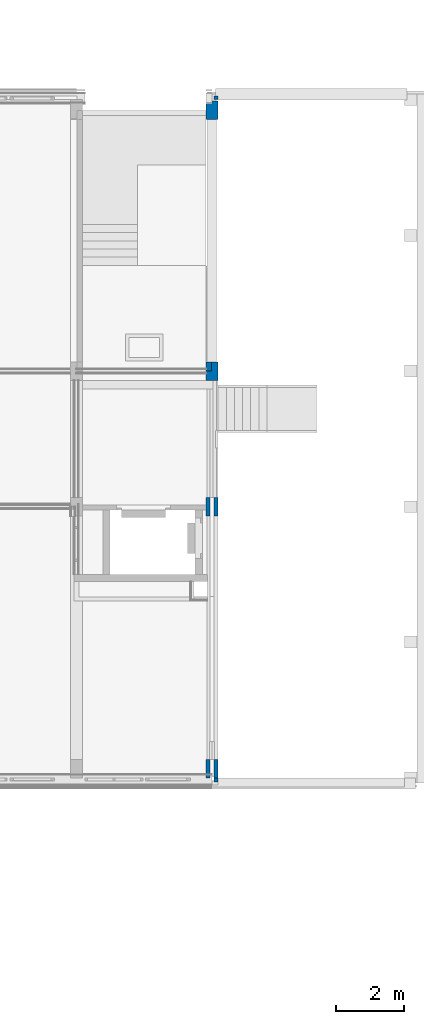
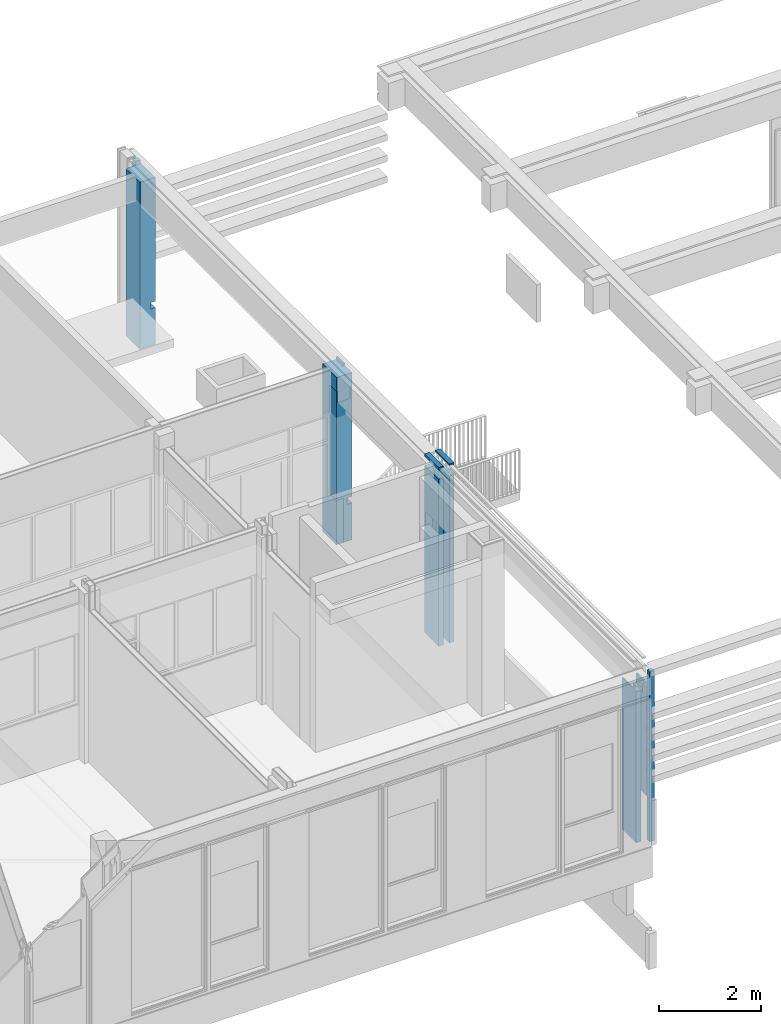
# One storey, part 5 of 54: 8 columns.
"""IFC2X3 building model written with IfcOpenShell, lengths in millimetres."""

from ifc_helpers import new_model, entity, si_unit, converted_unit, derived_unit, money_unit, direction, frame, origin_with_axes, place, context, subcontext, project, spatial, faceted_brep, material, type_object, element, save


model = new_model("IFC2X3")

# Units and contexts
model_context = context("Model", 3, precision=0.01, world=origin_with_axes(), true_north=direction((0.0, 1.0)))
body_context = subcontext(model_context, "Body", "Model", "MODEL_VIEW")
ifc_project = project(units=[si_unit("LENGTHUNIT", "METRE", prefix="MILLI"), si_unit("AREAUNIT", "SQUARE_METRE"), si_unit("VOLUMEUNIT", "CUBIC_METRE"), converted_unit("PLANEANGLEUNIT", "DEGREE", entity("IfcPlaneAngleMeasure", 0.0174532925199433), si_unit("PLANEANGLEUNIT", "RADIAN"), dimensions=[0, 0, 0, 0, 0, 0, 0]), money_unit("EUR"), converted_unit("TIMEUNIT", "Year", entity("IfcTimeMeasure", 31557600.0), si_unit("TIMEUNIT", "SECOND"), dimensions=[0, 0, 1, 0, 0, 0, 0]), si_unit("MASSUNIT", "GRAM", prefix="KILO"), si_unit("THERMODYNAMICTEMPERATUREUNIT", "DEGREE_CELSIUS"), si_unit("LUMINOUSINTENSITYUNIT", "LUMEN"), si_unit("ENERGYUNIT", "JOULE", prefix="MEGA"), derived_unit("THERMALCONDUCTANCEUNIT", [(si_unit("POWERUNIT", "WATT"), 1), (si_unit("LENGTHUNIT", "METRE"), -1), (si_unit("THERMODYNAMICTEMPERATUREUNIT", "KELVIN"), -1)]), derived_unit("SPECIFICHEATCAPACITYUNIT", [(si_unit("ENERGYUNIT", "JOULE"), 1), (si_unit("MASSUNIT", "GRAM", prefix="KILO"), -1), (si_unit("THERMODYNAMICTEMPERATUREUNIT", "KELVIN"), -1)]), derived_unit("MASSDENSITYUNIT", [(si_unit("MASSUNIT", "GRAM", prefix="KILO"), 1), (si_unit("VOLUMEUNIT", "CUBIC_METRE"), -1)])], contexts=[model_context])

# Site, building, storey
site_placement = place(None, origin_with_axes())
site = spatial("IfcSite", under=ifc_project, at=site_placement, Name="<site naam>", CompositionType="ELEMENT")
building_placement = place(site_placement, origin_with_axes())
building = spatial("IfcBuilding", under=site, at=building_placement, Name="<Naam gebouw>", CompositionType="ELEMENT")
storey_placement = place(building_placement, frame((0.0, 0.0, 8500.0), z_axis=(0.0, 0.0, 1.0), x_axis=(1.0, 0.0, 0.0)))
storey = spatial("IfcBuildingStorey", under=building, at=storey_placement, Name="02 2e verdieping", CompositionType="ELEMENT", Elevation=8500.0)

# Columns
ifc_material_1 = material(Name="betonblok C")
column_type_1 = type_object("IfcColumnType", Name="betonblok C 350 x 550", PredefinedType="COLUMN")
column_1_placement = place(storey_placement, frame((52000.00000000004, 12000.00000000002, 0.0), z_axis=(0.0, 0.0, 1.0), x_axis=(1.0, 0.0, 0.0)))
element("IfcColumn", 1, at=column_1_placement, inside=storey, type_object=column_type_1, material=ifc_material_1, Name="28_Kolom_betonblok", ObjectType="COLUMN", context=body_context, shape_type="Brep", body=[
    faceted_brep([(134.9999999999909, 275.0000000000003, 4050.000014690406), (134.9999999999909, -2.609430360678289e-05, 4050.000014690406), (175.0000786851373, -2.609430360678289e-05, 4050.000014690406), (174.9999999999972, 275.0000000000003, 4050.000014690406), (134.9999999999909, -275.0000000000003, 3660.0), (134.9999999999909, -2.609430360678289e-05, 3660.0), (134.9999999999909, 275.0000000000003, 3390.0), (134.9999999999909, -275.0000000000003, 3390.0), (175.0000786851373, -2.609430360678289e-05, 3660.0), (175.0000786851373, -274.9999999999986, 3660.0), (174.9999999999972, -274.9999999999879, 1033.000000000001), (174.9999999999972, 275.0000000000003, 1033.000000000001), (-15.00000000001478, 274.9999999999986, 0.0), (-15.00000000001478, 274.9999999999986, 3390.0), (64.99999999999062, 275.0000000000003, 1033.000000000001), (64.99999999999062, 275.0000000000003, 883.0000000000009), (174.9999999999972, 275.0000000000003, 883.0000000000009), (174.9999999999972, 275.0000000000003, 0.0), (-15.00000000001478, 0.0, 3390.0), (-145.0000000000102, 0.0, 3390.0), (-145.0000000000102, -275.0000000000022, 3390.0), (-145.0000000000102, -275.0000000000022, 3660.0), (-174.999921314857, -275.0000000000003, 3660.0), (-175.0000000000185, -274.9999999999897, 1063.000000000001), (-15.00000000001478, -274.9999999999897, 1063.000000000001), (-15.00000000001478, -275.0000000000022, 0.0), (174.9999999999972, -275.0000000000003, 0.0), (174.9999999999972, -274.9999999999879, 883.0000000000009), (64.99999999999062, -274.9999999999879, 883.0000000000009), (64.99999999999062, -274.9999999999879, 1033.000000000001), (-15.00000000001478, 0.0, 1063.000000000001), (-175.0000000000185, 0.0, 1063.000000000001), (-174.999921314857, -2.609430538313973e-05, 3660.0), (-145.0000000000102, -2.609430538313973e-05, 3660.0)], [[[0, 1, 2, 3]], [[4, 5, 1, 0, 6, 7]], [[5, 8, 2, 1]], [[2, 8, 9, 10, 11, 3]], [[12, 13, 6, 0, 3, 11, 14, 15, 16, 17]], [[4, 9, 8, 5]], [[7, 6, 13, 18, 19, 20]], [[10, 9, 4, 7, 20, 21, 22, 23, 24, 25, 26, 27, 28, 29]], [[10, 29, 14, 11]], [[30, 18, 13, 12, 25, 24]], [[29, 28, 15, 14]], [[15, 28, 27, 16]], [[26, 17, 16, 27]], [[12, 17, 26, 25]], [[31, 32, 33, 19, 18, 30]], [[19, 33, 21, 20]], [[22, 21, 33, 32]], [[23, 22, 32, 31]], [[30, 24, 23, 31]]]),
])
column_2_placement = place(storey_placement, frame((52000.00000000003, 275.0000000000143, 0.0), z_axis=(0.0, 0.0, 1.0), x_axis=(1.0, 0.0, 0.0)))
element("IfcColumn", 2, at=column_2_placement, inside=storey, type_object=column_type_1, material=ifc_material_1, Name="28_Kolom_betonblok", ObjectType="COLUMN", context=body_context, shape_type="Brep", body=[
    faceted_brep([(-144.999999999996, -113.1146094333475, 3390.0), (-144.999999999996, -113.1146094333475, 3610.000000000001), (-64.99999999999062, -113.1146094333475, 3610.000000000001), (-64.99999999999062, -113.1146094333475, 3390.0), (-144.999999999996, 275.0000000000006, 3390.0), (-144.999999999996, 275.0000000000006, 3610.000000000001), (-174.9999213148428, -275.0000260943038, 3610.000000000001), (-64.99999999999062, -275.0000260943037, 3610.000000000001), (-174.9999213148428, 275.0000000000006, 3610.000000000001), (-64.99999999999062, -275.0000000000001, 0.0), (-64.99999999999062, 275.0000000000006, 0.0), (-64.99999999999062, 275.0000000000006, 3390.0), (-174.9999999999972, 275.0000000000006, 0.0), (-174.9999999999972, -275.0000000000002, 0.0)], [[[0, 1, 2, 3]], [[4, 5, 1, 0]], [[6, 7, 2, 1, 5, 8]], [[3, 2, 7, 9, 10, 11]], [[0, 3, 11, 4]], [[12, 8, 5, 4, 11, 10]], [[9, 7, 6, 13]], [[13, 6, 8, 12]], [[9, 13, 12, 10]]]),
    faceted_brep([(135.0000000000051, 275.0000000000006, 3390.0), (135.0000000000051, 275.0000000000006, 3610.000000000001), (175.0000786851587, 275.0000000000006, 3610.000000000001), (175.0000000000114, 275.0000000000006, 1032.499999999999), (65.00000000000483, 275.0000000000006, 1032.499999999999), (65.00000000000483, 275.0000000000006, 3390.0), (135.0000000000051, -113.1146094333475, 3390.0), (135.0000000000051, -113.1146094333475, 3610.000000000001), (65.00000000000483, -275.0000260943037, 3610.000000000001), (175.0000786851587, -275.0000260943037, 3610.000000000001), (65.00000000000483, -113.1146094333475, 3610.000000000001), (174.9999999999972, -275.0000000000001, 3212.5), (174.9999999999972, -264.0893218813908, 3212.5), (174.9999999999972, -264.0893218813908, 3062.5), (174.9999999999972, -275.0000000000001, 3062.5), (174.9999999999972, -275.0000000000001, 2712.5), (174.9999999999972, -264.0893218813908, 2712.5), (174.9999999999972, -264.0893218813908, 2562.5), (174.9999999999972, -275.0000000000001, 2562.5), (174.9999999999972, -275.0000000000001, 2212.500000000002), (174.9999999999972, -264.0893218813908, 2212.5), (174.9999999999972, -264.0893218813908, 2062.5), (174.9999999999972, -275.0000000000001, 2062.5), (174.9999999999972, -275.0000000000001, 1712.499999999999), (174.9999999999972, -264.0893218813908, 1712.5), (174.9999999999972, -264.0893218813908, 1562.5), (174.9999999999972, -275.0000000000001, 1562.5), (175.0000000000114, -275.0000000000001, 1032.499999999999), (65.00000000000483, -275.0000000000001, 1032.499999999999), (65.00000000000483, -275.0000000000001, 3212.5), (65.00000000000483, -113.1146094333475, 3390.0), (65.00000000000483, -275.0000000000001, 1562.5), (65.00000000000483, -264.0893218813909, 1562.5), (65.00000000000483, -264.0893218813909, 1712.5), (65.00000000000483, -275.0000000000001, 1712.5), (65.00000000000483, -275.0000000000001, 2062.5), (65.00000000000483, -264.0893218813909, 2062.5), (65.00000000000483, -264.0893218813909, 2212.5), (65.00000000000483, -275.0000000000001, 2212.5), (65.00000000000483, -275.0000000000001, 2562.5), (65.00000000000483, -264.0893218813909, 2562.5), (65.00000000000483, -264.0893218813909, 2712.5), (65.00000000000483, -275.0000000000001, 2712.5), (65.00000000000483, -275.0000000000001, 3062.5), (65.00000000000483, -264.0893218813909, 3062.5), (65.00000000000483, -264.0893218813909, 3212.5)], [[[0, 1, 2, 3, 4, 5]], [[6, 7, 1, 0]], [[8, 9, 2, 1, 7, 10]], [[3, 2, 9, 11, 12, 13, 14, 15, 16, 17, 18, 19, 20, 21, 22, 23, 24, 25, 26, 27]], [[28, 4, 3, 27]], [[29, 8, 10, 30, 5, 4, 28, 31, 32, 33, 34, 35, 36, 37, 38, 39, 40, 41, 42, 43, 44, 45]], [[6, 0, 5, 30]], [[30, 10, 7, 6]], [[11, 9, 8, 29]], [[45, 12, 11, 29]], [[44, 13, 12, 45]], [[43, 14, 13, 44]], [[43, 42, 15, 14]], [[41, 16, 15, 42]], [[40, 17, 16, 41]], [[39, 18, 17, 40]], [[39, 38, 19, 18]], [[37, 20, 19, 38]], [[36, 21, 20, 37]], [[35, 22, 21, 36]], [[35, 34, 23, 22]], [[33, 24, 23, 34]], [[32, 25, 24, 33]], [[31, 26, 25, 32]], [[31, 28, 27, 26]]]),
])
column_3_placement = place(storey_placement, frame((52000.00000000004, 8000.000000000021, 0.0), z_axis=(0.0, 0.0, 1.0), x_axis=(1.0, 0.0, 0.0)))
element("IfcColumn", 3, at=column_3_placement, inside=storey, type_object=column_type_1, material=ifc_material_1, Name="28_Kolom_betonblok", ObjectType="COLUMN", context=body_context, shape_type="Brep", body=[
    faceted_brep([(-174.9999999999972, 274.9999999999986, 0.0), (-174.999921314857, 274.9999999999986, 3660.0), (-145.0000000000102, 274.9999999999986, 3660.0), (-145.0000000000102, 274.9999999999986, 3390.0), (-65.00000000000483, 274.9999999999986, 3390.0), (-65.00000000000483, 274.9999999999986, 0.0), (-174.999921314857, -5.546175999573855, 3610.000000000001), (-174.999921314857, -5.546175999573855, 3660.0), (-174.9999999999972, -275.0000000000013, 0.0), (-174.999921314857, -275.0000000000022, 3610.000000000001), (-145.0000000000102, -5.546175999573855, 3660.0), (-145.0000000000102, -5.546175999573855, 3610.000000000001), (-145.0000000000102, -275.000000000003, 3610.000000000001), (-145.0000000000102, -275.0000000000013, 3390.0), (-65.00000000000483, -275.0000000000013, 3390.0), (-65.00000000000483, -275.0000000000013, 0.0)], [[[0, 1, 2, 3, 4, 5]], [[6, 7, 1, 0, 8, 9]], [[7, 10, 2, 1]], [[3, 2, 10, 11, 12, 13]], [[13, 14, 4, 3]], [[5, 4, 14, 15]], [[15, 8, 0, 5]], [[11, 10, 7, 6]], [[13, 12, 9, 8, 15, 14]], [[9, 12, 11, 6]]]),
    faceted_brep([(-145.0000000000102, -275.0000000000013, 4210.000000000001), (-145.0000000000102, 274.9999999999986, 4210.000000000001), (-145.0000000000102, 274.9999999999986, 4240.0), (-145.0000000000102, -275.0000000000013, 4240.0), (-174.999921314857, -275.0000000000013, 4210.000000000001), (-174.999921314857, 274.9999999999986, 4210.000000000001), (-174.9999999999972, 274.9999999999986, 4270.0), (-65.00000000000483, 274.9999999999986, 4270.0), (-65.00000000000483, 274.9999999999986, 4240.0), (-65.00000000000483, -275.0000000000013, 4240.0), (-174.9999999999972, -275.0000000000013, 4270.0), (-65.00000000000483, -275.0000000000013, 4270.0)], [[[0, 1, 2, 3]], [[4, 5, 1, 0]], [[2, 1, 5, 6, 7, 8]], [[3, 2, 8, 9]], [[10, 4, 0, 3, 9, 11]], [[6, 5, 4, 10]], [[7, 6, 10, 11]], [[11, 9, 8, 7]]]),
    faceted_brep([(134.9999999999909, 275.0000000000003, 3390.0), (134.9999999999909, 274.9999999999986, 3660.0), (175.0000786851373, 275.0000000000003, 3660.0), (175.0000000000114, 275.0000000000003, 1032.499999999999), (64.99999999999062, 275.0000000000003, 1032.499999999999), (64.99999999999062, 275.0000000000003, 3390.0), (134.9999999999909, -5.546175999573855, 3610.000000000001), (134.9999999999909, -5.546175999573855, 3660.0), (134.9999999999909, -275.0000000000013, 3390.0), (134.9999999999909, -275.0000000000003, 3610.000000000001), (175.0000786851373, -5.546175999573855, 3660.0), (175.0000786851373, -5.546175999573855, 3610.000000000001), (175.0000786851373, -275.000000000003, 3610.000000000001), (175.0000000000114, -275.0000000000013, 1032.499999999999), (64.99999999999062, -275.0000000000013, 1032.499999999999), (64.99999999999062, -275.0000000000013, 3390.0)], [[[0, 1, 2, 3, 4, 5]], [[6, 7, 1, 0, 8, 9]], [[7, 10, 2, 1]], [[3, 2, 10, 11, 12, 13]], [[14, 4, 3, 13]], [[5, 4, 14, 15]], [[8, 0, 5, 15]], [[11, 10, 7, 6]], [[13, 12, 9, 8, 15, 14]], [[9, 12, 11, 6]]]),
    faceted_brep([(175.0000786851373, -275.0000000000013, 4210.000000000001), (175.0000786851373, 275.0000000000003, 4210.000000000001), (174.9999999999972, 275.0000000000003, 4270.0), (174.9999999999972, -275.0000000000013, 4270.0), (134.9999999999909, -275.0000000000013, 4210.000000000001), (134.9999999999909, 275.0000000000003, 4210.000000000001), (134.9999999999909, 275.0000000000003, 4240.0), (64.99999999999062, 275.0000000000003, 4240.0), (64.99999999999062, 275.0000000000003, 4270.0), (64.99999999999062, -275.0000000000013, 4270.0), (134.9999999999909, -275.0000000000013, 4240.0), (64.99999999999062, -275.0000000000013, 4240.0)], [[[0, 1, 2, 3]], [[4, 5, 1, 0]], [[2, 1, 5, 6, 7, 8]], [[9, 3, 2, 8]], [[10, 4, 0, 3, 9, 11]], [[6, 5, 4, 10]], [[11, 7, 6, 10]], [[8, 7, 11, 9]]]),
])
ifc_material_2 = material(Name="beton_gewapend C")
column_type_2 = type_object("IfcColumnType", Name="beton_gewapend C 350 x 550", PredefinedType="COLUMN")
column_4_placement = place(storey_placement, frame((52000.00000000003, 12000.00000000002, 0.0), z_axis=(0.0, 0.0, 1.0), x_axis=(1.0, 0.0, 0.0)))
element("IfcColumn", 4, at=column_4_placement, inside=storey, type_object=column_type_2, material=ifc_material_2, Name="28_Kolom_beton_gewapend", ObjectType="COLUMN", context=body_context, shape_type="Brep", body=[
    faceted_brep([(174.9999999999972, -275.0000000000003, 3990.0), (175.0000000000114, -274.9999999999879, 1033.000000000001), (174.9999999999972, 275.0000000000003, 1033.000000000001), (174.9999999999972, 275.0000000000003, 3990.0), (65.00000000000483, -274.9999999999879, 883.0000000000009), (65.00000000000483, -274.9999999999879, 1033.000000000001), (-174.9999999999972, -275.0000000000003, 3990.0), (-174.9999999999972, -275.0000000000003, 0.0), (174.9999999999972, -275.0000000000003, 0.0), (175.0000000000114, -274.9999999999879, 883.0000000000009), (65.00000000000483, 275.0000000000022, 1033.000000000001), (65.00000000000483, 275.0000000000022, 883.0000000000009), (174.9999999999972, 275.0000000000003, 883.0000000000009), (174.9999999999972, 275.0000000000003, 0.0), (-174.9999999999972, 275.0000000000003, 0.0), (-174.9999999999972, 275.0000000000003, 3990.0)], [[[0, 1, 2, 3]], [[4, 5, 1, 0, 6, 7, 8, 9]], [[5, 10, 2, 1]], [[10, 11, 12, 13, 14, 15, 3, 2]], [[6, 0, 3, 15]], [[4, 11, 10, 5]], [[6, 15, 14, 7]], [[7, 14, 13, 8]], [[13, 12, 9, 8]], [[4, 9, 12, 11]]]),
])
column_5_placement = place(storey_placement, frame((52000.00000000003, 19685.91067811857, 0.0), z_axis=(0.0, 0.0, 1.0), x_axis=(1.0, 0.0, 0.0)))
element("IfcColumn", 5, at=column_5_placement, inside=storey, type_object=column_type_2, material=ifc_material_2, Name="28_Kolom_beton_gewapend", ObjectType="COLUMN", context=body_context, shape_type="Brep", body=[
    faceted_brep([(174.9999999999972, -274.9999999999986, 3990.0), (174.9999999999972, -274.9999999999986, 1033.000000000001), (174.9999999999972, 274.9999999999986, 1033.000000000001), (174.9999999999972, 274.9999999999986, 3990.0), (65.00000000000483, -274.9999999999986, 883.0000000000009), (65.00000000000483, -274.9999999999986, 1033.000000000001), (-174.9999999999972, -274.9999999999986, 3990.0), (-174.9999999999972, -274.9999999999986, 0.0), (174.9999999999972, -274.9999999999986, 0.0), (174.9999999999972, -274.9999999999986, 883.0000000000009), (65.00000000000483, 274.9999999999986, 1033.000000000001), (65.00000000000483, 274.9999999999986, 883.0000000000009), (174.9999999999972, 274.9999999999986, 883.0000000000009), (174.9999999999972, 274.9999999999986, 0.0), (-174.9999999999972, 274.9999999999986, 0.0), (-174.9999999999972, 274.9999999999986, 3990.0)], [[[0, 1, 2, 3]], [[4, 5, 1, 0, 6, 7, 8, 9]], [[5, 10, 2, 1]], [[10, 11, 12, 13, 14, 15, 3, 2]], [[6, 0, 3, 15]], [[4, 11, 10, 5]], [[6, 15, 14, 7]], [[7, 14, 13, 8]], [[13, 12, 9, 8]], [[4, 9, 12, 11]]]),
])
column_6_placement = place(storey_placement, frame((52000.00000000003, 8000.000000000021, 0.0), z_axis=(0.0, 0.0, 1.0), x_axis=(1.0, 0.0, 0.0)))
element("IfcColumn", 6, at=column_6_placement, inside=storey, type_object=column_type_2, material=ifc_material_2, Name="28_Kolom_beton_gewapend", ObjectType="COLUMN", context=body_context, shape_type="Brep", body=[
    faceted_brep([(-174.9999999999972, -275.0000000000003, 3990.0), (-64.99999999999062, -275.0000000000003, 3990.0), (-64.99999999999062, 275.0000000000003, 3990.0), (-174.9999999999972, 275.0000000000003, 3990.0), (-174.9999999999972, -275.0000000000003, 0.0), (-64.99999999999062, -275.0000000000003, 0.0), (-64.99999999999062, 275.0000000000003, 0.0), (-174.9999999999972, 275.0000000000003, 0.0)], [[[0, 1, 2, 3]], [[4, 5, 1, 0]], [[5, 6, 2, 1]], [[3, 2, 6, 7]], [[0, 3, 7, 4]], [[7, 6, 5, 4]]]),
    faceted_brep([(174.9999999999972, 275.0000000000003, 0.0), (65.00000000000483, 275.0000000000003, 0.0), (65.00000000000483, 275.0000000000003, 3990.000000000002), (174.9999999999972, 275.0000000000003, 3990.0), (174.9999999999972, -275.0000000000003, 0.0), (65.00000000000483, -275.0000000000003, 0.0), (65.00000000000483, -275.0000000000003, 3990.0), (174.9999999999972, -275.0000000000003, 3990.0)], [[[0, 1, 2, 3]], [[4, 5, 1, 0]], [[5, 6, 2, 1]], [[3, 2, 6, 7]], [[3, 7, 4, 0]], [[7, 6, 5, 4]]]),
])
column_type_3 = type_object("IfcColumnType", Name="beton_gewapend C 110 x 108", PredefinedType="COLUMN")
column_7_placement = place(storey_placement, frame((52120.00002295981, -53.83736682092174, 0.0), z_axis=(0.0, 0.0, 1.0), x_axis=(1.0, 0.0, 0.0)))
element("IfcColumn", 7, at=column_7_placement, inside=storey, type_object=column_type_3, material=ifc_material_2, Name="28_Kolom_beton_gewapend", ObjectType="COLUMN", context=body_context, shape_type="Brep", body=[
    faceted_brep([(-54.9999770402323, 53.83736682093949, 0.0), (-54.9999770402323, 53.83736682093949, 4050.000014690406), (54.9999770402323, 53.83736682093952, 4050.000014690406), (54.9999770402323, 53.83736682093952, 0.0), (-54.9999770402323, -53.83736682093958, 0.0), (-54.9999770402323, -53.83736682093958, 4050.000014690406), (54.9999770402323, -53.83736682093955, 4050.000014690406), (54.9999770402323, -53.83736682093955, 0.0)], [[[0, 1, 2, 3]], [[4, 5, 1, 0]], [[5, 6, 2, 1]], [[3, 2, 6, 7]], [[0, 3, 7, 4]], [[7, 6, 5, 4]]]),
])
column_8_placement = place(storey_placement, frame((52120.00002295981, 20053.83728223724, 0.0), z_axis=(0.0, 0.0, 1.0), x_axis=(1.0, 0.0, 0.0)))
element("IfcColumn", 8, at=column_8_placement, inside=storey, type_object=column_type_3, material=ifc_material_2, Name="28_Kolom_beton_gewapend", ObjectType="COLUMN", context=body_context, shape_type="Brep", body=[
    faceted_brep([(-54.9999770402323, 53.83736682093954, 0.0), (-54.9999770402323, 53.83736682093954, 4050.000014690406), (54.9999770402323, 53.83736682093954, 4050.000014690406), (54.9999770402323, 53.83736682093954, 0.0), (-54.9999770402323, -53.83736682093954, 0.0), (-54.9999770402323, -53.83736682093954, 4050.000014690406), (54.9999770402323, -53.83736682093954, 4050.000014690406), (54.9999770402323, -53.83736682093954, 0.0)], [[[0, 1, 2, 3]], [[4, 5, 1, 0]], [[5, 6, 2, 1]], [[3, 2, 6, 7]], [[3, 7, 4, 0]], [[7, 6, 5, 4]]]),
])

save(model, "model.ifc")
